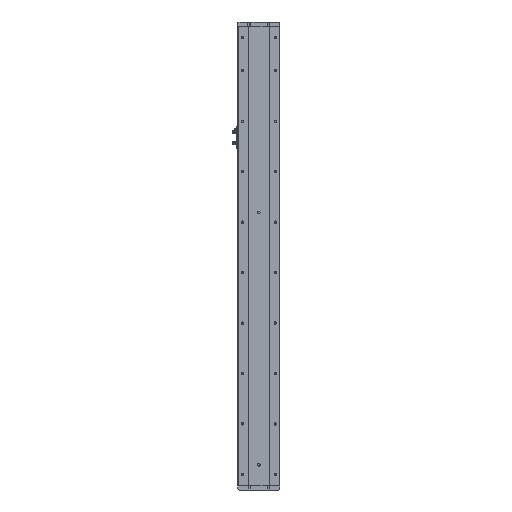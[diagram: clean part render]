
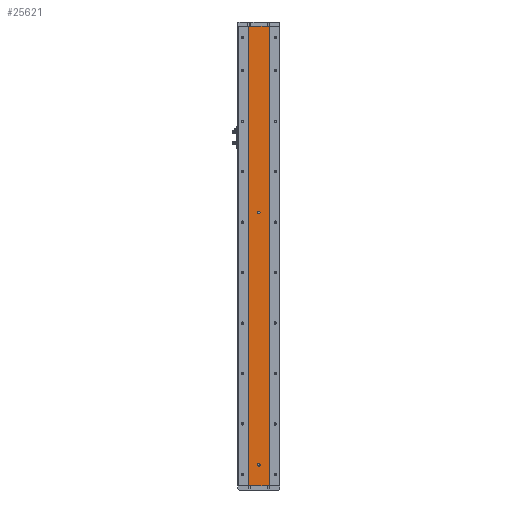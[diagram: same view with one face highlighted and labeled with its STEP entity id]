
A CAD part, left-side view. The second image highlights one B-rep face of the part: STEP entity #25621.
In plain terms, the highlighted planar face has unit normal (-1, 0, 0).
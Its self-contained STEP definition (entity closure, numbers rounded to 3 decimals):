
#489 = VERTEX_POINT ( 'NONE', #3663 ) ;
#670 = CARTESIAN_POINT ( 'NONE',  ( -18.926, 0., 50. ) ) ;
#817 = CARTESIAN_POINT ( 'NONE',  ( -18.926, -24.785, 1093. ) ) ;
#1322 = VECTOR ( 'NONE', #2886, 1000. ) ;
#2563 = VECTOR ( 'NONE', #22388, 1000. ) ;
#2886 = DIRECTION ( 'NONE',  ( 0., -1., 0. ) ) ;
#3447 = EDGE_CURVE ( 'NONE', #27238, #489, #24747, .T. ) ;
#3594 = LINE ( 'NONE', #31915, #2563 ) ;
#3663 = CARTESIAN_POINT ( 'NONE',  ( -18.926, -24.785, 0. ) ) ;
#3957 = DIRECTION ( 'NONE',  ( 0., 0., 1. ) ) ;
#4316 = ORIENTED_EDGE ( 'NONE', *, *, #20382, .F. ) ;
#5735 = CARTESIAN_POINT ( 'NONE',  ( -18.926, 0., 50. ) ) ;
#5895 = ORIENTED_EDGE ( 'NONE', *, *, #9125, .F. ) ;
#6091 = DIRECTION ( 'NONE',  ( 0., 0., -1. ) ) ;
#6131 = EDGE_CURVE ( 'NONE', #16026, #34700, #16771, .T. ) ;
#6964 = DIRECTION ( 'NONE',  ( 1., 0., 0. ) ) ;
#7912 = FACE_OUTER_BOUND ( 'NONE', #8115, .T. ) ;
#8115 = EDGE_LOOP ( 'NONE', ( #36825, #15494, #19976, #21601 ) ) ;
#8926 = DIRECTION ( 'NONE',  ( 0., 0., 1. ) ) ;
#9125 = EDGE_CURVE ( 'NONE', #33533, #37713, #22827, .T. ) ;
#9163 = CARTESIAN_POINT ( 'NONE',  ( -18.926, 24.785, 1093. ) ) ;
#9588 = CIRCLE ( 'NONE', #13663, 3. ) ;
#10716 = DIRECTION ( 'NONE',  ( -1., 0., 0. ) ) ;
#11150 = EDGE_CURVE ( 'NONE', #40933, #16563, #36620, .T. ) ;
#13663 = AXIS2_PLACEMENT_3D ( 'NONE', #5735, #28275, #8926 ) ;
#14309 = CARTESIAN_POINT ( 'NONE',  ( -18.926, 0., 650. ) ) ;
#14701 = EDGE_CURVE ( 'NONE', #34700, #16026, #40568, .T. ) ;
#15494 = ORIENTED_EDGE ( 'NONE', *, *, #36720, .F. ) ;
#15693 = CARTESIAN_POINT ( 'NONE',  ( -18.926, 24.785, 1093. ) ) ;
#15751 = ORIENTED_EDGE ( 'NONE', *, *, #14701, .F. ) ;
#16026 = VERTEX_POINT ( 'NONE', #21817 ) ;
#16481 = FACE_BOUND ( 'NONE', #25289, .T. ) ;
#16563 = VERTEX_POINT ( 'NONE', #817 ) ;
#16771 = CIRCLE ( 'NONE', #30508, 3. ) ;
#17209 = CARTESIAN_POINT ( 'NONE',  ( -18.926, 24.785, 0. ) ) ;
#17440 = CARTESIAN_POINT ( 'NONE',  ( -18.926, 0., 47. ) ) ;
#17547 = DIRECTION ( 'NONE',  ( 0., 0., 1. ) ) ;
#17620 = CARTESIAN_POINT ( 'NONE',  ( -18.926, 24.785, 1093. ) ) ;
#17934 = CARTESIAN_POINT ( 'NONE',  ( -18.926, 0., 53. ) ) ;
#19976 = ORIENTED_EDGE ( 'NONE', *, *, #11150, .F. ) ;
#20382 = EDGE_CURVE ( 'NONE', #37713, #33533, #9588, .T. ) ;
#21600 = CARTESIAN_POINT ( 'NONE',  ( -18.926, 24.785, 0. ) ) ;
#21601 = ORIENTED_EDGE ( 'NONE', *, *, #40658, .T. ) ;
#21817 = CARTESIAN_POINT ( 'NONE',  ( -18.926, 0., 647. ) ) ;
#22388 = DIRECTION ( 'NONE',  ( 0., 0., -1. ) ) ;
#22827 = CIRCLE ( 'NONE', #25245, 3. ) ;
#23250 = DIRECTION ( 'NONE',  ( -1., 0., 0. ) ) ;
#24054 = FACE_BOUND ( 'NONE', #33689, .T. ) ;
#24747 = LINE ( 'NONE', #21600, #40813 ) ;
#25245 = AXIS2_PLACEMENT_3D ( 'NONE', #670, #23250, #3957 ) ;
#25289 = EDGE_LOOP ( 'NONE', ( #15751, #29754 ) ) ;
#25621 = ADVANCED_FACE ( 'NONE', ( #16481, #24054, #7912 ), #29383, .F. ) ;
#26153 = VECTOR ( 'NONE', #6091, 1000. ) ;
#26248 = CARTESIAN_POINT ( 'NONE',  ( -18.926, 24.785, 1093. ) ) ;
#27158 = LINE ( 'NONE', #9163, #26153 ) ;
#27238 = VERTEX_POINT ( 'NONE', #17209 ) ;
#28275 = DIRECTION ( 'NONE',  ( -1., 0., 0. ) ) ;
#28691 = AXIS2_PLACEMENT_3D ( 'NONE', #26248, #6964, #29521 ) ;
#29109 = AXIS2_PLACEMENT_3D ( 'NONE', #14309, #36846, #17547 ) ;
#29383 = PLANE ( 'NONE',  #28691 ) ;
#29521 = DIRECTION ( 'NONE',  ( 0., 0., -1. ) ) ;
#29754 = ORIENTED_EDGE ( 'NONE', *, *, #6131, .F. ) ;
#30029 = CARTESIAN_POINT ( 'NONE',  ( -18.926, 0., 650. ) ) ;
#30508 = AXIS2_PLACEMENT_3D ( 'NONE', #30029, #10716, #33219 ) ;
#31915 = CARTESIAN_POINT ( 'NONE',  ( -18.926, -24.785, 1093. ) ) ;
#33219 = DIRECTION ( 'NONE',  ( 0., 0., 1. ) ) ;
#33533 = VERTEX_POINT ( 'NONE', #17440 ) ;
#33689 = EDGE_LOOP ( 'NONE', ( #4316, #5895 ) ) ;
#34700 = VERTEX_POINT ( 'NONE', #40838 ) ;
#36620 = LINE ( 'NONE', #15693, #1322 ) ;
#36720 = EDGE_CURVE ( 'NONE', #16563, #489, #3594, .T. ) ;
#36825 = ORIENTED_EDGE ( 'NONE', *, *, #3447, .T. ) ;
#36846 = DIRECTION ( 'NONE',  ( -1., 0., 0. ) ) ;
#37713 = VERTEX_POINT ( 'NONE', #17934 ) ;
#37719 = DIRECTION ( 'NONE',  ( 0., -1., 0. ) ) ;
#40568 = CIRCLE ( 'NONE', #29109, 3. ) ;
#40658 = EDGE_CURVE ( 'NONE', #40933, #27238, #27158, .T. ) ;
#40813 = VECTOR ( 'NONE', #37719, 1000. ) ;
#40838 = CARTESIAN_POINT ( 'NONE',  ( -18.926, 0., 653. ) ) ;
#40933 = VERTEX_POINT ( 'NONE', #17620 ) ;
